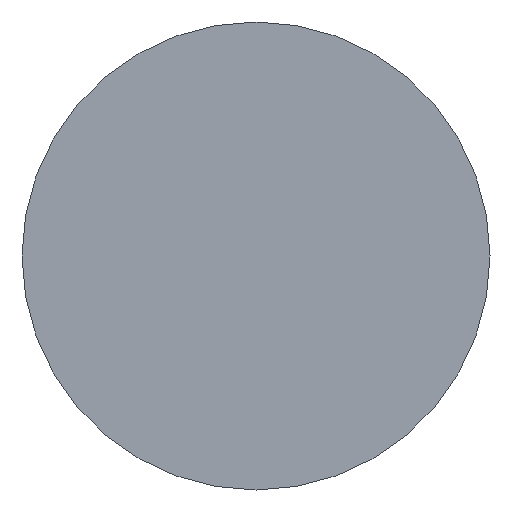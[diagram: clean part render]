
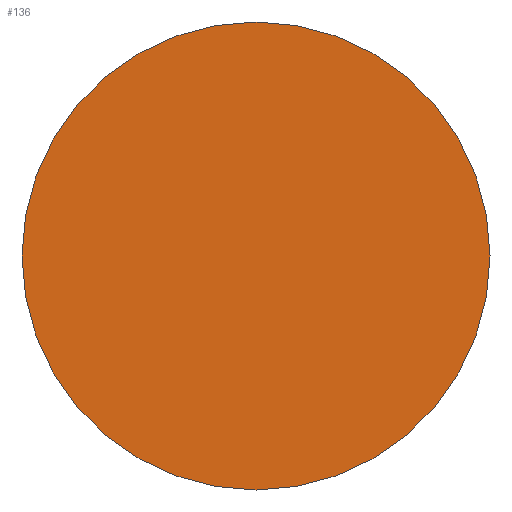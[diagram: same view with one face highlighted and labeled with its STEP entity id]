
A CAD part, left-side view. The second image highlights one B-rep face of the part: STEP entity #136.
In plain terms, the highlighted planar face has unit normal (-1, 0, 0).
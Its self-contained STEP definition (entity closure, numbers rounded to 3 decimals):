
#7 = ORIENTED_EDGE ( 'NONE', *, *, #261, .F. ) ;
#24 = ORIENTED_EDGE ( 'NONE', *, *, #112, .F. ) ;
#36 = AXIS2_PLACEMENT_3D ( 'NONE', #218, #45, #180 ) ;
#45 = DIRECTION ( 'NONE',  ( -1., 0., 0. ) ) ;
#86 = CARTESIAN_POINT ( 'NONE',  ( 0., -13., 0. ) ) ;
#87 = CIRCLE ( 'NONE', #173, 13. ) ;
#105 = VERTEX_POINT ( 'NONE', #86 ) ;
#109 = CARTESIAN_POINT ( 'NONE',  ( 0., 0., 0. ) ) ;
#112 = EDGE_CURVE ( 'NONE', #182, #105, #87, .T. ) ;
#136 = ADVANCED_FACE ( 'NONE', ( #193 ), #232, .T. ) ;
#146 = DIRECTION ( 'NONE',  ( 1., 0., 0. ) ) ;
#150 = DIRECTION ( 'NONE',  ( 0., 1., 0. ) ) ;
#163 = CARTESIAN_POINT ( 'NONE',  ( 0., 13., 0. ) ) ;
#173 = AXIS2_PLACEMENT_3D ( 'NONE', #109, #146, #150 ) ;
#180 = DIRECTION ( 'NONE',  ( 0., -1., 0. ) ) ;
#182 = VERTEX_POINT ( 'NONE', #163 ) ;
#187 = EDGE_LOOP ( 'NONE', ( #24, #7 ) ) ;
#193 = FACE_OUTER_BOUND ( 'NONE', #187, .T. ) ;
#194 = CARTESIAN_POINT ( 'NONE',  ( 0., 0., 0. ) ) ;
#218 = CARTESIAN_POINT ( 'NONE',  ( 0., 0., 0. ) ) ;
#221 = AXIS2_PLACEMENT_3D ( 'NONE', #194, #224, #270 ) ;
#224 = DIRECTION ( 'NONE',  ( 1., 0., 0. ) ) ;
#232 = PLANE ( 'NONE',  #36 ) ;
#258 = CIRCLE ( 'NONE', #221, 13. ) ;
#261 = EDGE_CURVE ( 'NONE', #105, #182, #258, .T. ) ;
#270 = DIRECTION ( 'NONE',  ( 0., 1., 0. ) ) ;
